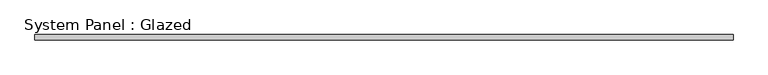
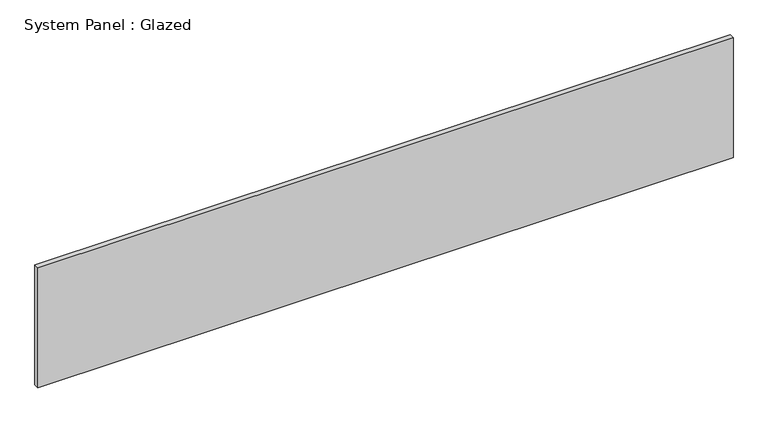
"""IFC4 building model written with IfcOpenShell, lengths in millimetres: plate geometry, System Panel : Glazed."""

import ifcopenshell
import ifcopenshell.guid

model = None  # the IFC model being written
_history = None  # IfcOwnerHistory: only IFC2X3 demands one
_inside = {}  # id of a spatial element -> (the spatial element, [elements in it])
_under = {}  # id of a project, library or spatial element -> (it, [spatial elements below it])
_declared = {}  # id of a project -> (the project, [libraries it declares])
_typed = {}  # id of a type object -> (the type object, [elements of that type])
_made_of = {}  # id of a material, layer set ... -> (it, [elements and type objects made of it])


def new_model(schema):
    """Start an empty IFC model of exactly this schema.

    Asked for "IFC4X3", IfcOpenShell would pick the latest addendum, in which some entities
    have other attributes; the version numbers below select the first issue.
    IFC2X3 requires an IfcOwnerHistory on every rooted entity: one is made here for all.
    """
    global model, _history
    if schema == "IFC4X3":
        model = ifcopenshell.file(schema_version=(4, 3, 0, 0))
    else:
        model = ifcopenshell.file(schema=schema)
    _inside.clear()
    _under.clear()
    _declared.clear()
    _typed.clear()
    _made_of.clear()
    _history = None
    if model.schema == "IFC2X3":
        org = make("IfcOrganization", Name="unknown")
        user = make(
            "IfcPersonAndOrganization",
            ThePerson=make("IfcPerson", FamilyName="unknown"),
            TheOrganization=org,
        )
        app = make(
            "IfcApplication",
            ApplicationDeveloper=org,
            Version="unknown",
            ApplicationFullName="unknown",
            ApplicationIdentifier="unknown",
        )
        _history = make(
            "IfcOwnerHistory",
            OwningUser=user,
            OwningApplication=app,
            ChangeAction="ADDED",
            CreationDate=0,
        )
    return model


def make(cls, **values):
    """One entity of the class cls with the attributes given. An attribute that is None is left unset."""
    return model.create_entity(
        cls, **{name: value for name, value in values.items() if value is not None}
    )


def rooted(cls, **values):
    """An entity with a GlobalId (a new one), such as an element, a storey or a relation."""
    return make(cls, GlobalId=ifcopenshell.guid.new(), OwnerHistory=_history, **values)


def si_unit(unit_type, name, prefix=None):
    """IfcSIUnit, for example si_unit("LENGTHUNIT", "METRE", prefix="MILLI")."""
    return make("IfcSIUnit", UnitType=unit_type, Prefix=prefix, Name=name)


def assignment(units):
    """IfcUnitAssignment: the units of a project."""
    return None if units is None else make("IfcUnitAssignment", Units=units)


def point(xyz):
    """IfcCartesianPoint."""
    return None if xyz is None else make("IfcCartesianPoint", Coordinates=xyz)


def direction(xyz):
    """IfcDirection."""
    return None if xyz is None else make("IfcDirection", DirectionRatios=xyz)


def frame(location, z_axis=None, x_axis=None):
    """IfcAxis2Placement3D, a coordinate frame: its origin and axes. An axis left out is left unset."""
    return make(
        "IfcAxis2Placement3D",
        Location=point(location),
        Axis=direction(z_axis),
        RefDirection=direction(x_axis),
    )


def origin():
    """The frame at (0, 0, 0) with its axes left unset."""
    return frame((0.0, 0.0, 0.0))


def origin_with_axes():
    """The frame at (0, 0, 0) with the z axis (0, 0, 1) and the x axis (1, 0, 0) written out."""
    return frame((0.0, 0.0, 0.0), z_axis=(0.0, 0.0, 1.0), x_axis=(1.0, 0.0, 0.0))


def place(relative_to, where):
    """IfcLocalPlacement: puts the frame where relative to a parent placement (None: the world)."""
    return make(
        "IfcLocalPlacement", PlacementRelTo=relative_to, RelativePlacement=where
    )


def context(
    kind, dimensions, precision=None, world=None, true_north=None, identifier=None
):
    """IfcGeometricRepresentationContext, for example the 3D "Model" context."""
    return make(
        "IfcGeometricRepresentationContext",
        ContextIdentifier=identifier,
        ContextType=kind,
        CoordinateSpaceDimension=dimensions,
        Precision=precision,
        WorldCoordinateSystem=world,
        TrueNorth=true_north,
    )


def project(units=None, contexts=None):
    """IfcProject with its units and contexts."""
    return rooted(
        "IfcProject",
        Name="project",
        RepresentationContexts=contexts,
        UnitsInContext=assignment(units),
    )


def spatial(cls, under=None, at=None, **own):
    """A site, building, storey or space (cls), placed at a placement, below another one or the project."""
    s = rooted(cls, ObjectPlacement=at, **own)
    if under is not None:
        _under.setdefault(under.id(), (under, []))[1].append(s)
    return s


def polyline(points):
    """IfcPolyline through the points."""
    return make("IfcPolyline", Points=[point(p) for p in points])


def outline(outer, holes=None, kind="AREA"):
    """IfcArbitraryClosedProfileDef: a profile drawn as a closed curve; with holes, ...WithVoids."""
    if holes is None:
        return make("IfcArbitraryClosedProfileDef", ProfileType=kind, OuterCurve=outer)
    return make(
        "IfcArbitraryProfileDefWithVoids",
        ProfileType=kind,
        OuterCurve=outer,
        InnerCurves=holes,
    )


def extrude(swept, where, along, depth):
    """IfcExtrudedAreaSolid: the profile swept, set in the frame where, extruded along a direction by depth."""
    return make(
        "IfcExtrudedAreaSolid",
        SweptArea=swept,
        Position=where,
        ExtrudedDirection=direction(along),
        Depth=depth,
    )


def shape(context_of_items, identifier, shape_type, items):
    """IfcShapeRepresentation: the items that make up one representation, for example the "Body"."""
    return make(
        "IfcShapeRepresentation",
        ContextOfItems=context_of_items,
        RepresentationIdentifier=identifier,
        RepresentationType=shape_type,
        Items=items,
    )


def source(mapping_origin, context_of_items, identifier, shape_type, items):
    """IfcRepresentationMap: a shape defined once, which mapped items show again and again."""
    return make(
        "IfcRepresentationMap",
        MappingOrigin=mapping_origin,
        MappedRepresentation=shape(context_of_items, identifier, shape_type, items),
    )


def transform(
    local_origin,
    x_axis=None,
    y_axis=None,
    z_axis=None,
    scale=None,
    scale2=None,
    scale3=None,
    uniform=True,
):
    """IfcCartesianTransformationOperator3D, or its non-uniform kind. x_axis, y_axis, z_axis: its Axis1, 2, 3."""
    if uniform:
        return make(
            "IfcCartesianTransformationOperator3D",
            Axis1=direction(x_axis),
            Axis2=direction(y_axis),
            LocalOrigin=point(local_origin),
            Scale=scale,
            Axis3=direction(z_axis),
        )
    return make(
        "IfcCartesianTransformationOperator3DnonUniform",
        Axis1=direction(x_axis),
        Axis2=direction(y_axis),
        LocalOrigin=point(local_origin),
        Scale=scale,
        Axis3=direction(z_axis),
        Scale2=scale2,
        Scale3=scale3,
    )


def mapped(mapping_source, mapping_target):
    """IfcMappedItem: shows the shape of a source again, moved by a transform."""
    return make(
        "IfcMappedItem", MappingSource=mapping_source, MappingTarget=mapping_target
    )


def made_of(thing, what):
    """Note that an element or type object is made of a material, layer set ...; save() writes the relation."""
    if what is not None:
        _made_of.setdefault(what.id(), (what, []))[1].append(thing)
    return thing


def element(
    cls,
    number,
    at=None,
    inside=None,
    cuts=None,
    type_object=None,
    material=None,
    context=None,
    identifier="Body",
    shape_type=None,
    held_by="IfcProductDefinitionShape",
    body=None,
    shapes=None,
    **own,
):
    """One element of the class cls, such as IfcWall. Its Tag is "e" and its number.

    at: its placement. inside: the storey or other place that contains it. cuts: it is an
    opening in that element (IfcRelVoidsElement). A single representation is given by context,
    identifier, shape_type and body (its items); several are given by shapes. held_by: the class
    of the entity that holds the representations. save() writes the other relations.
    """
    e = rooted(cls, Tag="e%d" % number, ObjectPlacement=at, **own)
    if body is not None:
        shapes = [shape(context, identifier, shape_type, body)]
    if shapes is not None:
        e.Representation = make(held_by, Representations=shapes)
    if inside is not None:
        _inside.setdefault(inside.id(), (inside, []))[1].append(e)
    if cuts is not None:
        rooted(
            "IfcRelVoidsElement", RelatingBuildingElement=cuts, RelatedOpeningElement=e
        )
    if type_object is not None:
        _typed.setdefault(type_object.id(), (type_object, []))[1].append(e)
    return made_of(e, material)


def aggregate(whole, parts):
    """IfcRelAggregates: a whole, such as a stair, and the parts it consists of."""
    return rooted("IfcRelAggregates", RelatingObject=whole, RelatedObjects=parts)


def save(model, path):
    """Write the relations noted so far, then the file.

    IfcRelAggregates (storeys below a building ...), IfcRelContainedInSpatialStructure (elements
    in a storey), IfcRelDefinesByType, IfcRelAssociatesMaterial and IfcRelDeclares: one each for
    every whole, place, type object, material and project.
    """
    for whole, parts in _under.values():
        aggregate(whole, parts)
    for where, things in _inside.values():
        rooted(
            "IfcRelContainedInSpatialStructure",
            RelatedElements=things,
            RelatingStructure=where,
        )
    for kind, things in _typed.values():
        rooted("IfcRelDefinesByType", RelatedObjects=things, RelatingType=kind)
    for what, things in _made_of.values():
        rooted("IfcRelAssociatesMaterial", RelatedObjects=things, RelatingMaterial=what)
    for by, libraries in _declared.values():
        rooted("IfcRelDeclares", RelatingContext=by, RelatedDefinitions=libraries)
    model.write(path)


def system_panel_glazed_33089aa0(model_context):
    return source(origin(), model_context, "Body", "SweptSolid", [
        extrude(outline(polyline([(1643.75, 24.5), (-1643.75, 24.5), (-1643.75, 49.5), (1643.75, 49.5), (1643.75, 24.5)])), origin_with_axes(), (0.0, 0.0, 1.0), 600.0),
    ])


if __name__ == "__main__":
    model = new_model("IFC4")
    model_context = context("Model", 3, world=origin())
    ifc_project = project(units=[si_unit("LENGTHUNIT", "METRE", prefix="MILLI")], contexts=[model_context])
    site = spatial("IfcSite", under=ifc_project)
    building = spatial("IfcBuilding", under=site)
    placement = place(None, origin())
    system_panel_glazed_shape = system_panel_glazed_33089aa0(model_context)
    element("IfcPlate", 1, ObjectType="System Panel : Glazed", at=placement, inside=building, context=model_context, shape_type="MappedRepresentation", body=[
        mapped(system_panel_glazed_shape, transform((0.0, 0.0, 0.0), x_axis=(1.0, 0.0, 0.0), y_axis=(0.0, 1.0, 0.0), z_axis=(0.0, 0.0, 1.0))),
    ])
    save(model, "model.ifc")
